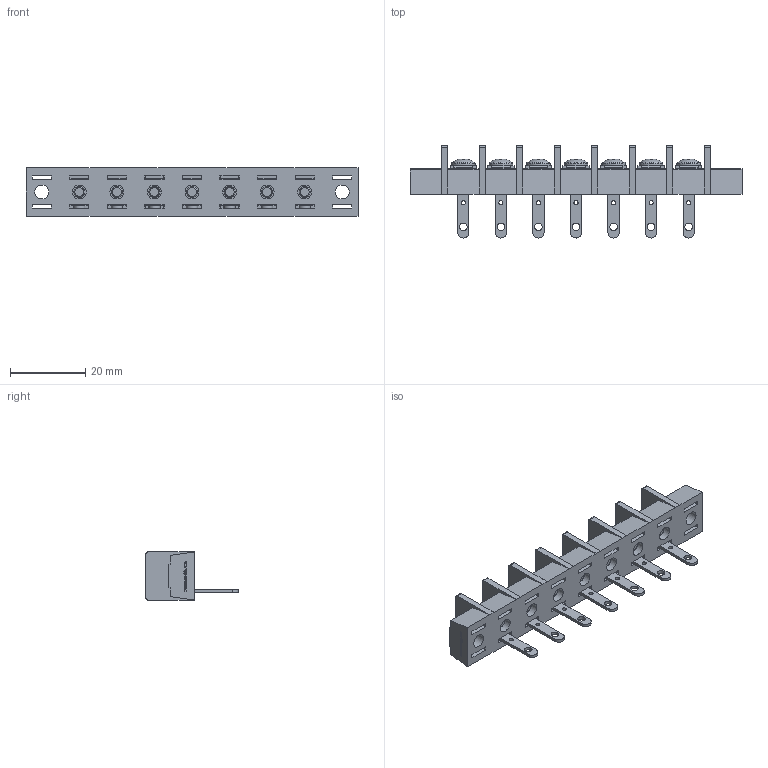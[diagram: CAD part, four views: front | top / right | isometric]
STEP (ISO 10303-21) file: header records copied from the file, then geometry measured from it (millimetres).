
FILE_DESCRIPTION(/* description */ ('Alibre Inc.'),/* implementation_level */ '2;1');
FILE_NAME(/* name */ 'export0',/* time_stamp */ '2015-10-22T20:37:30+09:00',/* author */ (''),/* organization */ (''),/* preprocessor_version */ 'ST-DEVELOPER v14',/* originating_system */ 'Alibre',/* authorisation */ '');
FILE_SCHEMA (('CONFIG_CONTROL_DESIGN'));
Length unit declared in the file: centimetre
Products named in the file (1): ID_1
Bounding box: 88.4 x 24.5 x 12.8 mm (x, y, z)
Volume: 7828.3 mm3; surface area: 9392.7 mm2
Topology: 1 solids, 120 shells, 2393 faces, 6149 edges, 4066 vertices
Faces by surface type: plane 1779, bspline 468, cylinder 90, cone 35, torus 14, sphere 7
Full cylindrical faces by diameter (mm): 1.1 x7, 2 x7, 3 x14, 3.7 x9, 4.6 x9, 6.3 x7
Entity records: 69412 total; most frequent: CARTESIAN_POINT 16754, ORIENTED_EDGE 12132, DIRECTION 7296, EDGE_CURVE 6066, VECTOR 4661, LINE 4661, VERTEX_POINT 4057, EDGE_LOOP 2675
